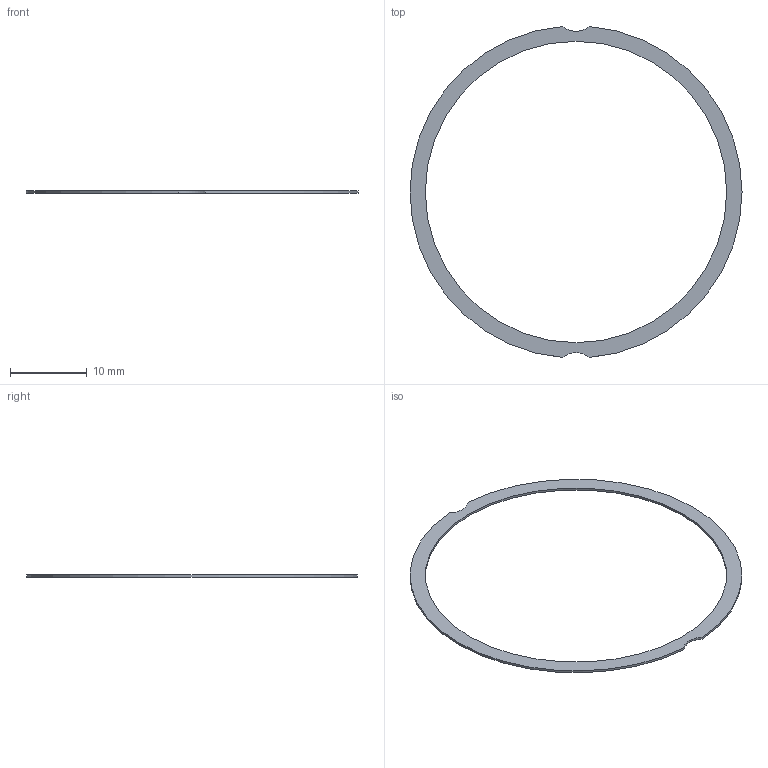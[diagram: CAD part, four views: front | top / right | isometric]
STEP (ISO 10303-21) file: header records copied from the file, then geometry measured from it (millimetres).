
FILE_DESCRIPTION(('Open CASCADE Model'),'2;1');
FILE_NAME('Speaker_gasket_reference','2026-09-21T22:33:41',('Author'),( 'Open CASCADE'),'Open CASCADE STEP processor 7.9','build123d', 'Unknown');
FILE_SCHEMA(('AUTOMOTIVE_DESIGN { 1 0 10303 214 1 1 1 1 }'));
Length unit declared in the file: millimetre
Products named in the file (2): Speaker_gasket_reference
Assembly tree (1 placements, depth 2):
  Speaker_gasket_reference
    Speaker_gasket_reference
Bounding box: 43.4 x 43.26 x 0.3 mm (x, y, z)
Volume: 77.1 mm3; surface area: 591.9 mm2
Topology: 1 solids, 1 shells, 7 faces, 17 edges, 12 vertices
Faces by surface type: cylinder 5, plane 2
Full cylindrical faces by diameter (mm): 39.4 x1
Entity records: 275 total; most frequent: DIRECTION 47, CARTESIAN_POINT 38, ORIENTED_EDGE 34, AXIS2_PLACEMENT_3D 21, EDGE_CURVE 17, VERTEX_POINT 12, CIRCLE 12, FACE_BOUND 9
